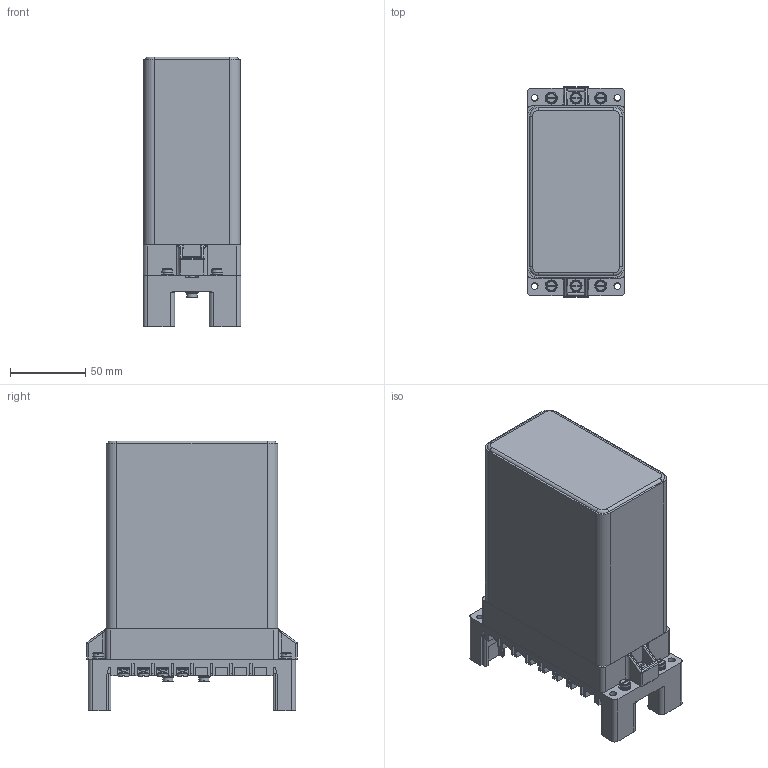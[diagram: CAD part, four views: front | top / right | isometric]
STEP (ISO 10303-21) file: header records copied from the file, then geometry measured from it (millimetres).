
FILE_DESCRIPTION(('STEP AP214'), '1');
FILE_NAME('ÈÀÅÆ.647155.016-84 - ÐÒ-140_2 ç.ï', '', ('UNSPECIFIED'), ('UNSPECIFIED'), 'ASCON STEP Converter 1.3', 'ASCON Math Kernel', '');
FILE_SCHEMA(('AUTOMOTIVE_DESIGN { 1 0 10303 214 3 1 1}'));
Length unit declared in the file: millimetre
Products named in the file (1): 壤牌.647155.016-84
Bounding box: 65 x 140 x 179.5 mm (x, y, z)
Volume: 1158477.6 mm3; surface area: 110570.6 mm2
Topology: 1 solids, 1 shells, 4270 faces, 10323 edges, 6198 vertices
Faces by surface type: plane 3483, cylinder 687, torus 52, cone 36, bspline 12
Full cylindrical faces by diameter (mm): 4 x20, 4.3 x6, 4.5 x32, 5 x2, 5.9 x8, 7 x2, 7.5 x10, 8 x8
Entity records: 159326 total; most frequent: CARTESIAN_POINT 26284, ORIENTED_EDGE 20358, DIRECTION 20023, EDGE_CURVE 10179, LINE 8253, VECTOR 8253, VERTEX_POINT 6198, AXIS2_PLACEMENT_3D 5885
